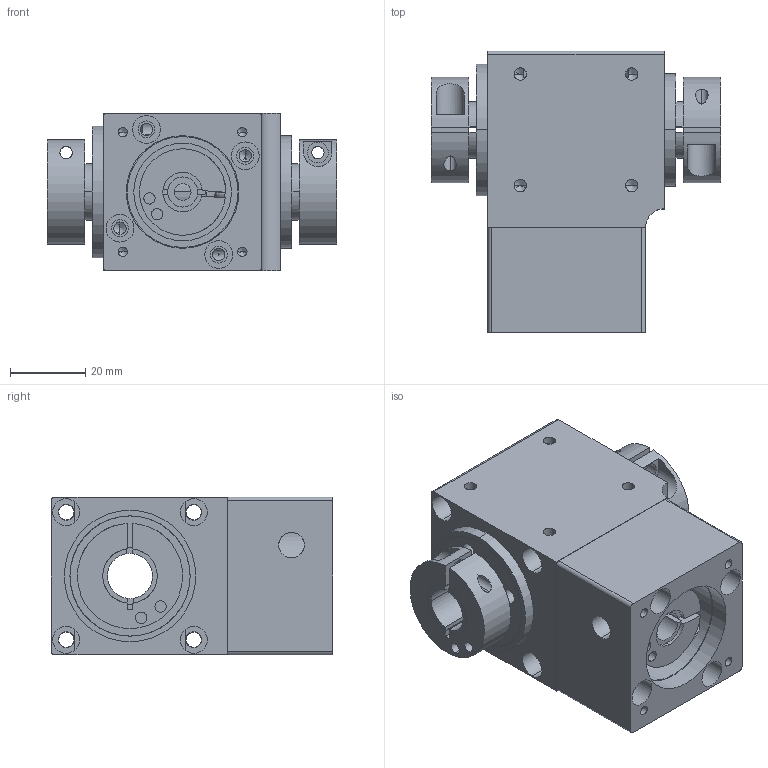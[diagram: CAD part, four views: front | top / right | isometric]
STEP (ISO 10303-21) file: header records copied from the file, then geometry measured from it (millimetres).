
FILE_DESCRIPTION (( 'STEP AP203' ), '1' );
FILE_NAME ('42双孔（100W）.STEP', '2020-07-30T06:29:11', ( 'User' ), ( 'China' ), 'SwSTEP 2.0', 'SolidWorks 2015', '' );
FILE_SCHEMA (( 'CONFIG_CONTROL_DESIGN' ));
Length unit declared in the file: millimetre
Products named in the file (12): deep groove ball bearings gb_Rolling bearings 6001 GB 276-94; deep groove ball bearings gb_Rolling bearings 6002 GB 276-94; deep groove ball bearings gb_Rolling bearings 61902 GB 276-94; 怀堤粣ㄗ邧謂ㄘ; 標杶2; 綴楊擘ㄗ侂狟100Wㄘ; 蹟譫; 42邧謂ㄗ100Wㄘ; 蹟譫ㄗ2ㄘ; 褲极; 標杶ㄗ1ㄘ; 输入轴
Assembly tree (12 placements, depth 2):
  42邧謂ㄗ100Wㄘ
    褲极
    输入轴
    蹟譫
    蹟譫ㄗ2ㄘ
    標杶ㄗ1ㄘ
    deep groove ball bearings gb_Rolling bearings 6001 GB 276-94
    deep groove ball bearings gb_Rolling bearings 6002 GB 276-94
    deep groove ball bearings gb_Rolling bearings 61902 GB 276-94
    怀堤粣ㄗ邧謂ㄘ
    標杶2  x2
    綴楊擘ㄗ侂狟100Wㄘ
Bounding box: 77 x 75 x 42 mm (x, y, z)
Volume: 103298.3 mm3; surface area: 63359.2 mm2
Topology: 12 solids, 12 shells, 722 faces, 2568 edges, 1695 vertices
Faces by surface type: cylinder 263, torus 177, plane 127, sphere 98, cone 57
Entity records: 30530 total; most frequent: CARTESIAN_POINT 10020, ORIENTED_EDGE 4352, DIRECTION 3852, EDGE_CURVE 2176, AXIS2_PLACEMENT_3D 1715, VERTEX_POINT 1459, CIRCLE 1003, EDGE_LOOP 829
